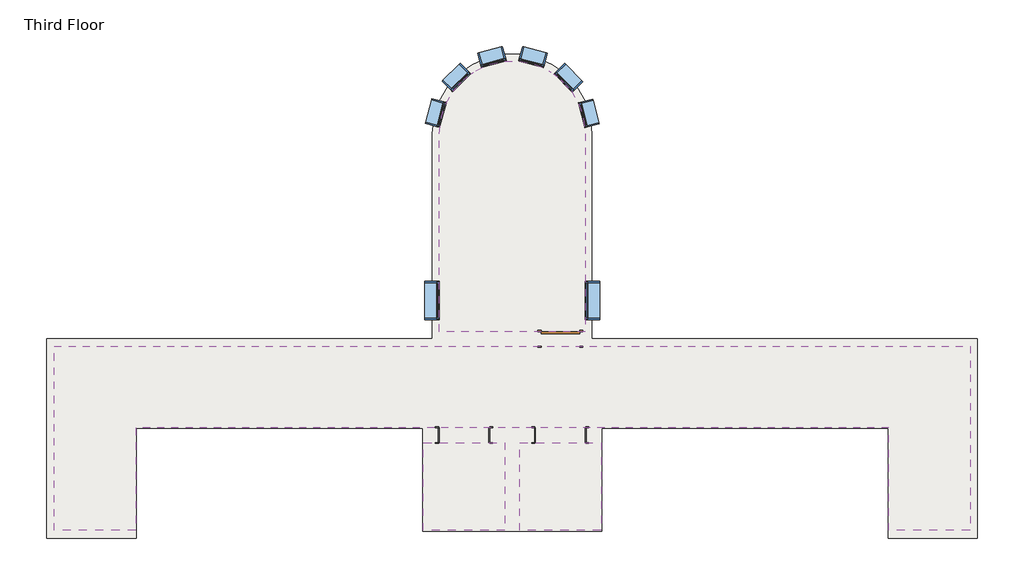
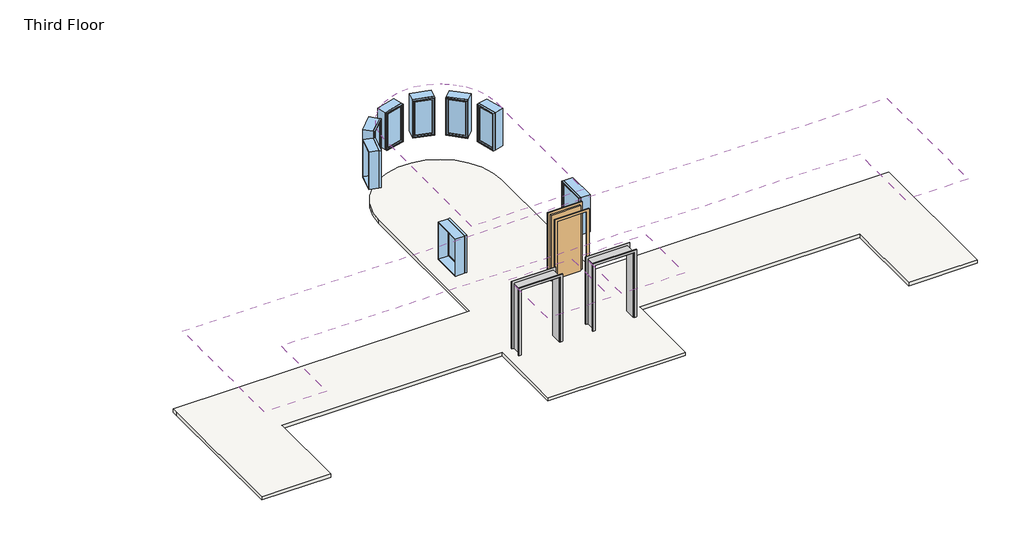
# One storey: 8 windows, 4 coverings, 2 proxies, 1 door, 1 slab.
"""IFC4 building model written with IfcOpenShell, lengths in millimetres."""

import ifcopenshell
import ifcopenshell.guid

model = None  # the IFC model being written
_history = None  # IfcOwnerHistory: only IFC2X3 demands one
_inside = {}  # id of a spatial element -> (the spatial element, [elements in it])
_under = {}  # id of a project, library or spatial element -> (it, [spatial elements below it])
_declared = {}  # id of a project -> (the project, [libraries it declares])
_typed = {}  # id of a type object -> (the type object, [elements of that type])
_made_of = {}  # id of a material, layer set ... -> (it, [elements and type objects made of it])


def new_model(schema):
    """Start an empty IFC model of exactly this schema.

    Asked for "IFC4X3", IfcOpenShell would pick the latest addendum, in which some entities
    have other attributes; the version numbers below select the first issue.
    IFC2X3 requires an IfcOwnerHistory on every rooted entity: one is made here for all.
    """
    global model, _history
    if schema == "IFC4X3":
        model = ifcopenshell.file(schema_version=(4, 3, 0, 0))
    else:
        model = ifcopenshell.file(schema=schema)
    _inside.clear()
    _under.clear()
    _declared.clear()
    _typed.clear()
    _made_of.clear()
    _history = None
    if model.schema == "IFC2X3":
        org = make("IfcOrganization", Name="unknown")
        user = make(
            "IfcPersonAndOrganization",
            ThePerson=make("IfcPerson", FamilyName="unknown"),
            TheOrganization=org,
        )
        app = make(
            "IfcApplication",
            ApplicationDeveloper=org,
            Version="unknown",
            ApplicationFullName="unknown",
            ApplicationIdentifier="unknown",
        )
        _history = make(
            "IfcOwnerHistory",
            OwningUser=user,
            OwningApplication=app,
            ChangeAction="ADDED",
            CreationDate=0,
        )
    return model


def make(cls, **values):
    """One entity of the class cls with the attributes given. An attribute that is None is left unset."""
    return model.create_entity(
        cls, **{name: value for name, value in values.items() if value is not None}
    )


def rooted(cls, **values):
    """An entity with a GlobalId (a new one), such as an element, a storey or a relation."""
    return make(cls, GlobalId=ifcopenshell.guid.new(), OwnerHistory=_history, **values)


def si_unit(unit_type, name, prefix=None):
    """IfcSIUnit, for example si_unit("LENGTHUNIT", "METRE", prefix="MILLI")."""
    return make("IfcSIUnit", UnitType=unit_type, Prefix=prefix, Name=name)


def assignment(units):
    """IfcUnitAssignment: the units of a project."""
    return None if units is None else make("IfcUnitAssignment", Units=units)


def point(xyz):
    """IfcCartesianPoint."""
    return None if xyz is None else make("IfcCartesianPoint", Coordinates=xyz)


def direction(xyz):
    """IfcDirection."""
    return None if xyz is None else make("IfcDirection", DirectionRatios=xyz)


def frame(location, z_axis=None, x_axis=None):
    """IfcAxis2Placement3D, a coordinate frame: its origin and axes. An axis left out is left unset."""
    return make(
        "IfcAxis2Placement3D",
        Location=point(location),
        Axis=direction(z_axis),
        RefDirection=direction(x_axis),
    )


def frame_2d(location, x_axis=None):
    """IfcAxis2Placement2D, a coordinate frame in the plane: its origin and x axis."""
    return make(
        "IfcAxis2Placement2D", Location=point(location), RefDirection=direction(x_axis)
    )


def origin():
    """The frame at (0, 0, 0) with its axes left unset."""
    return frame((0.0, 0.0, 0.0))


def origin_with_axes():
    """The frame at (0, 0, 0) with the z axis (0, 0, 1) and the x axis (1, 0, 0) written out."""
    return frame((0.0, 0.0, 0.0), z_axis=(0.0, 0.0, 1.0), x_axis=(1.0, 0.0, 0.0))


def place(relative_to, where):
    """IfcLocalPlacement: puts the frame where relative to a parent placement (None: the world)."""
    return make(
        "IfcLocalPlacement", PlacementRelTo=relative_to, RelativePlacement=where
    )


def context(
    kind, dimensions, precision=None, world=None, true_north=None, identifier=None
):
    """IfcGeometricRepresentationContext, for example the 3D "Model" context."""
    return make(
        "IfcGeometricRepresentationContext",
        ContextIdentifier=identifier,
        ContextType=kind,
        CoordinateSpaceDimension=dimensions,
        Precision=precision,
        WorldCoordinateSystem=world,
        TrueNorth=true_north,
    )


def project(units=None, contexts=None):
    """IfcProject with its units and contexts."""
    return rooted(
        "IfcProject",
        Name="project",
        RepresentationContexts=contexts,
        UnitsInContext=assignment(units),
    )


def spatial(cls, under=None, at=None, **own):
    """A site, building, storey or space (cls), placed at a placement, below another one or the project."""
    s = rooted(cls, ObjectPlacement=at, **own)
    if under is not None:
        _under.setdefault(under.id(), (under, []))[1].append(s)
    return s


def polyline(points):
    """IfcPolyline through the points."""
    return make("IfcPolyline", Points=[point(p) for p in points])


def circle_curve(where, radius):
    """IfcCircle in the frame where."""
    return make("IfcCircle", Position=where, Radius=radius)


def trimmed(basis, trim1, trim2, sense, master):
    """IfcTrimmedCurve: the piece of a basis curve between two trims."""
    return make(
        "IfcTrimmedCurve",
        BasisCurve=basis,
        Trim1=trim1,
        Trim2=trim2,
        SenseAgreement=sense,
        MasterRepresentation=master,
    )


def segment(curve, same_sense, transition):
    """IfcCompositeCurveSegment."""
    return make(
        "IfcCompositeCurveSegment",
        Transition=transition,
        SameSense=same_sense,
        ParentCurve=curve,
    )


def composite_curve(segments, self_intersect=None):
    """IfcCompositeCurve: segments joined end to end."""
    return make("IfcCompositeCurve", Segments=segments, SelfIntersect=self_intersect)


def outline(outer, holes=None, kind="AREA"):
    """IfcArbitraryClosedProfileDef: a profile drawn as a closed curve; with holes, ...WithVoids."""
    if holes is None:
        return make("IfcArbitraryClosedProfileDef", ProfileType=kind, OuterCurve=outer)
    return make(
        "IfcArbitraryProfileDefWithVoids",
        ProfileType=kind,
        OuterCurve=outer,
        InnerCurves=holes,
    )


def extrude(swept, where, along, depth):
    """IfcExtrudedAreaSolid: the profile swept, set in the frame where, extruded along a direction by depth."""
    return make(
        "IfcExtrudedAreaSolid",
        SweptArea=swept,
        Position=where,
        ExtrudedDirection=direction(along),
        Depth=depth,
    )


def faces_of(points, faces, orient=None, outer=None):
    """IfcFace entities. A face is a list of loops; a loop is a list of indices into points, from 0.

    orient and outer hold one flag for each loop. By default every Orientation is true, the
    first loop of a face is its IfcFaceOuterBound and the others are IfcFaceBound.
    """
    made = []
    for i, loops in enumerate(faces):
        bounds = []
        for j, loop in enumerate(loops):
            is_outer = j == 0 if outer is None else outer[i][j]
            bounds.append(
                make(
                    "IfcFaceOuterBound" if is_outer else "IfcFaceBound",
                    Bound=make("IfcPolyLoop", Polygon=[points[k] for k in loop]),
                    Orientation=True if orient is None else orient[i][j],
                )
            )
        made.append(make("IfcFace", Bounds=bounds))
    return made


def faceted_brep(points, faces, orient=None, outer=None, voids=None):
    """IfcFacetedBrep: a solid bounded by flat faces; with voids (closed shells), ...WithVoids."""
    shared = [point(p) for p in points]
    hull = make("IfcClosedShell", CfsFaces=faces_of(shared, faces, orient, outer))
    if voids is None:
        return make("IfcFacetedBrep", Outer=hull)
    return make(
        "IfcFacetedBrepWithVoids",
        Outer=hull,
        Voids=[
            make(cls, CfsFaces=faces_of(shared, fs, o, b)) for cls, fs, o, b in voids
        ],
    )


def shape(context_of_items, identifier, shape_type, items):
    """IfcShapeRepresentation: the items that make up one representation, for example the "Body"."""
    return make(
        "IfcShapeRepresentation",
        ContextOfItems=context_of_items,
        RepresentationIdentifier=identifier,
        RepresentationType=shape_type,
        Items=items,
    )


def source(mapping_origin, context_of_items, identifier, shape_type, items):
    """IfcRepresentationMap: a shape defined once, which mapped items show again and again."""
    return make(
        "IfcRepresentationMap",
        MappingOrigin=mapping_origin,
        MappedRepresentation=shape(context_of_items, identifier, shape_type, items),
    )


def transform(
    local_origin,
    x_axis=None,
    y_axis=None,
    z_axis=None,
    scale=None,
    scale2=None,
    scale3=None,
    uniform=True,
):
    """IfcCartesianTransformationOperator3D, or its non-uniform kind. x_axis, y_axis, z_axis: its Axis1, 2, 3."""
    if uniform:
        return make(
            "IfcCartesianTransformationOperator3D",
            Axis1=direction(x_axis),
            Axis2=direction(y_axis),
            LocalOrigin=point(local_origin),
            Scale=scale,
            Axis3=direction(z_axis),
        )
    return make(
        "IfcCartesianTransformationOperator3DnonUniform",
        Axis1=direction(x_axis),
        Axis2=direction(y_axis),
        LocalOrigin=point(local_origin),
        Scale=scale,
        Axis3=direction(z_axis),
        Scale2=scale2,
        Scale3=scale3,
    )


def mapped(mapping_source, mapping_target):
    """IfcMappedItem: shows the shape of a source again, moved by a transform."""
    return make(
        "IfcMappedItem", MappingSource=mapping_source, MappingTarget=mapping_target
    )


def made_of(thing, what):
    """Note that an element or type object is made of a material, layer set ...; save() writes the relation."""
    if what is not None:
        _made_of.setdefault(what.id(), (what, []))[1].append(thing)
    return thing


def element(
    cls,
    number,
    at=None,
    inside=None,
    cuts=None,
    type_object=None,
    material=None,
    context=None,
    identifier="Body",
    shape_type=None,
    held_by="IfcProductDefinitionShape",
    body=None,
    shapes=None,
    **own,
):
    """One element of the class cls, such as IfcWall. Its Tag is "e" and its number.

    at: its placement. inside: the storey or other place that contains it. cuts: it is an
    opening in that element (IfcRelVoidsElement). A single representation is given by context,
    identifier, shape_type and body (its items); several are given by shapes. held_by: the class
    of the entity that holds the representations. save() writes the other relations.
    """
    e = rooted(cls, Tag="e%d" % number, ObjectPlacement=at, **own)
    if body is not None:
        shapes = [shape(context, identifier, shape_type, body)]
    if shapes is not None:
        e.Representation = make(held_by, Representations=shapes)
    if inside is not None:
        _inside.setdefault(inside.id(), (inside, []))[1].append(e)
    if cuts is not None:
        rooted(
            "IfcRelVoidsElement", RelatingBuildingElement=cuts, RelatedOpeningElement=e
        )
    if type_object is not None:
        _typed.setdefault(type_object.id(), (type_object, []))[1].append(e)
    return made_of(e, material)


def aggregate(whole, parts):
    """IfcRelAggregates: a whole, such as a stair, and the parts it consists of."""
    return rooted("IfcRelAggregates", RelatingObject=whole, RelatedObjects=parts)


def save(model, path):
    """Write the relations noted so far, then the file.

    IfcRelAggregates (storeys below a building ...), IfcRelContainedInSpatialStructure (elements
    in a storey), IfcRelDefinesByType, IfcRelAssociatesMaterial and IfcRelDeclares: one each for
    every whole, place, type object, material and project.
    """
    for whole, parts in _under.values():
        aggregate(whole, parts)
    for where, things in _inside.values():
        rooted(
            "IfcRelContainedInSpatialStructure",
            RelatedElements=things,
            RelatingStructure=where,
        )
    for kind, things in _typed.values():
        rooted("IfcRelDefinesByType", RelatedObjects=things, RelatingType=kind)
    for what, things in _made_of.values():
        rooted("IfcRelAssociatesMaterial", RelatedObjects=things, RelatingMaterial=what)
    for by, libraries in _declared.values():
        rooted("IfcRelDeclares", RelatingContext=by, RelatedDefinitions=libraries)
    model.write(path)


def proxy_c3589814(model_context):
    return source(origin(), model_context, "Body", "SolidModel", [
        extrude(outline(polyline([(0.0, -611.4386567), (2127.25, -611.4386567), (2127.25, 595.0613433), (0.0, 595.0613433), (0.0, 671.2613433), (2203.45, 671.2613433), (2203.45, -687.6386567), (0.0, -687.6386567), (0.0, -611.4386567)])), frame((0.0, -195.2625, 0.0), z_axis=(0.0, 1.0, 0.0), x_axis=(0.0, 0.0, 1.0)), (0.0, 0.0, 1.0), 19.05),
        extrude(outline(polyline([(0.0, 671.2613433), (2209.8, 671.2613433), (2209.8, -687.6386567), (0.0, -687.6386567), (0.0, -611.4386567), (2127.25, -611.4386567), (2127.25, 595.0613433), (0.0, 595.0613433), (0.0, 671.2613433)])), frame((0.0, 176.2125, 0.0), z_axis=(0.0, 1.0, 0.0), x_axis=(0.0, 0.0, 1.0)), (0.0, 0.0, 1.0), 19.05),
        faceted_brep([(582.3613433, 176.2125, 0.0), (601.4113433, 176.2125, 0.0), (601.4113433, -176.2125, 0.0), (582.3613433, -176.2125, 0.0), (582.3613433, 176.2125, 2114.55), (601.4113433, 176.2125, 2133.6), (601.4113433, -176.2125, 2133.6), (582.3613433, -176.2125, 2114.55), (-598.7386567, 176.2125, 2114.55), (-617.7886567, 176.2125, 2133.6), (-617.7886567, -176.2125, 2133.6), (-598.7386567, -176.2125, 2114.55), (-598.7386567, 176.2125, 0.0), (-598.7386567, -176.2125, 0.0), (-617.7886567, -176.2125, 0.0), (-617.7886567, 176.2125, 0.0)], [[[0, 1, 2, 3]], [[1, 0, 4, 5]], [[2, 1, 5, 6]], [[3, 2, 6, 7]], [[0, 3, 7, 4]], [[5, 4, 8, 9]], [[6, 5, 9, 10]], [[7, 6, 10, 11]], [[4, 7, 11, 8]], [[12, 13, 14, 15]], [[9, 8, 12, 15]], [[10, 9, 15, 14]], [[11, 10, 14, 13]], [[8, 11, 13, 12]]]),
    ])


def door_632be17d(model_context):
    return source(origin(), model_context, "Body", "SweptSolid", [
        extrude(outline(polyline([(2209.8, -533.4), (0.0, -533.4), (0.0, -457.2), (2133.6, -457.2), (2133.6, 457.2), (0.0, 457.2), (0.0, 533.4), (2209.8, 533.4), (2209.8, -533.4)])), frame((0.0, 176.2125, 0.0), z_axis=(0.0, 1.0, 0.0), x_axis=(0.0, 0.0, 1.0)), (0.0, 0.0, 1.0), 25.4),
        extrude(outline(polyline([(2209.8, 533.4), (2209.8, -533.4), (0.0, -533.4), (0.0, -457.2), (2133.6, -457.2), (2133.6, 457.2), (0.0, 457.2), (0.0, 533.4), (2209.8, 533.4)])), frame((0.0, -201.6125, 0.0), z_axis=(0.0, 1.0, 0.0), x_axis=(0.0, 0.0, 1.0)), (0.0, 0.0, 1.0), 25.4),
        extrude(outline(polyline([(457.2, 125.4125), (-457.2, 125.4125), (-457.2, 176.2125), (457.2, 176.2125), (457.2, 125.4125)])), origin_with_axes(), (0.0, 0.0, 1.0), 2133.6),
    ])


def window_60baf983(model_context):
    return source(origin(), model_context, "Body", "SweptSolid", [
        extrude(outline(polyline([(203.2, 128.5875), (-279.4, 128.5875), (-279.4, 141.2875), (203.2, 141.2875), (203.2, 128.5875)])), frame((0.0, 0.0, 977.9), z_axis=(0.0, 0.0, 1.0), x_axis=(1.0, 0.0, 0.0)), (0.0, 0.0, 1.0), 1092.2),
        extrude(outline(polyline([(2114.55, -323.85), (933.45, -323.85), (933.45, 247.65), (2114.55, 247.65), (2114.55, -323.85)]), holes=[polyline([(2070.1, -279.4), (2070.1, 203.2), (977.9, 203.2), (977.9, -279.4), (2070.1, -279.4)])]), frame((0.0, 112.7125, 0.0), z_axis=(0.0, 1.0, 0.0), x_axis=(0.0, 0.0, 1.0)), (0.0, 0.0, 1.0), 44.45),
        extrude(outline(polyline([(2133.6, -342.9), (914.4, -342.9), (914.4, 266.7), (2133.6, 266.7), (2133.6, -342.9)]), holes=[polyline([(2101.85, -311.15), (2101.85, 234.95), (946.15, 234.95), (946.15, -311.15), (2101.85, -311.15)])]), frame((0.0, -176.2125, 0.0), z_axis=(0.0, 1.0, 0.0), x_axis=(0.0, 0.0, 1.0)), (0.0, 0.0, 1.0), 288.925),
        extrude(outline(polyline([(2133.6, 266.7), (2133.6, -342.9), (914.4, -342.9), (914.4, 266.7), (2133.6, 266.7)]), holes=[polyline([(2114.55, 247.65), (933.45, 247.65), (933.45, -323.85), (2114.55, -323.85), (2114.55, 247.65)])]), frame((0.0, 112.7125, 0.0), z_axis=(0.0, 1.0, 0.0), x_axis=(0.0, 0.0, 1.0)), (0.0, 0.0, 1.0), 63.5),
    ])


def window_15c49d37(model_context):
    return source(origin(), model_context, "Body", "SweptSolid", [
        extrude(outline(polyline([(355.6, 128.5875), (-431.8, 128.5875), (-431.8, 141.2875), (355.6, 141.2875), (355.6, 128.5875)])), frame((0.0, 0.0, 977.9), z_axis=(0.0, 0.0, 1.0), x_axis=(1.0, 0.0, 0.0)), (0.0, 0.0, 1.0), 1092.2),
        extrude(outline(polyline([(2114.55, -476.25), (933.45, -476.25), (933.45, 400.05), (2114.55, 400.05), (2114.55, -476.25)]), holes=[polyline([(2070.1, -431.8), (2070.1, 355.6), (977.9, 355.6), (977.9, -431.8), (2070.1, -431.8)])]), frame((0.0, 112.7125, 0.0), z_axis=(0.0, 1.0, 0.0), x_axis=(0.0, 0.0, 1.0)), (0.0, 0.0, 1.0), 44.45),
        extrude(outline(polyline([(2133.6, -495.3), (914.4, -495.3), (914.4, 419.1), (2133.6, 419.1), (2133.6, -495.3)]), holes=[polyline([(2101.85, -463.55), (2101.85, 387.35), (946.15, 387.35), (946.15, -463.55), (2101.85, -463.55)])]), frame((0.0, -176.2125, 0.0), z_axis=(0.0, 1.0, 0.0), x_axis=(0.0, 0.0, 1.0)), (0.0, 0.0, 1.0), 288.925),
        extrude(outline(polyline([(2133.6, 419.1), (2133.6, -495.3), (914.4, -495.3), (914.4, 419.1), (2133.6, 419.1)]), holes=[polyline([(2114.55, 400.05), (933.45, 400.05), (933.45, -476.25), (2114.55, -476.25), (2114.55, 400.05)])]), frame((0.0, 112.7125, 0.0), z_axis=(0.0, 1.0, 0.0), x_axis=(0.0, 0.0, 1.0)), (0.0, 0.0, 1.0), 63.5),
    ])


model = new_model("IFC4")

# Units and contexts
model_context = context("Model", 3, world=origin())
ifc_project = project(units=[si_unit("LENGTHUNIT", "METRE", prefix="MILLI")], contexts=[model_context])

# Site, building, storey
site = spatial("IfcSite", under=ifc_project)
building = spatial("IfcBuilding", under=site)
storey = spatial("IfcBuildingStorey", under=building, Name="Third Floor", Elevation=6096.0)

# Proxies
placement = place(None, origin())
proxy_shape = proxy_c3589814(model_context)
element("IfcBuildingElementProxy", 1, Name="Opening-Cased : 48\" x 84\"", ObjectType="Opening-Cased : 48\" x 84\"", at=placement, inside=storey, context=model_context, shape_type="MappedRepresentation", body=[
    mapped(proxy_shape, transform((-7396.8036255, 2429.9758812, 6096.0), x_axis=(-1.0, 0.0, 0.0), y_axis=(0.0, -1.0, 0.0), z_axis=(0.0, 0.0, 1.0))),
])
element("IfcBuildingElementProxy", 2, Name="Opening-Cased : 48\" x 84\"", ObjectType="Opening-Cased : 48\" x 84\"", at=placement, inside=storey, context=model_context, shape_type="MappedRepresentation", body=[
    mapped(proxy_shape, transform((-5110.8036255, 2429.9758812, 6096.0), x_axis=(-1.0, 0.0, 0.0), y_axis=(0.0, -1.0, 0.0), z_axis=(0.0, 0.0, 1.0))),
])

# Coverings
element("IfcCovering", 3, ObjectType="GWB on Mtl. Stud", at=placement, inside=storey, context=model_context, shape_type="SweptSolid", body=[
    extrude(outline(polyline([(2693.5975313, 167.7883812), (2693.5975313, 2606.1883812), (-15184.8274687, 2606.1883812), (-15184.8274687, 167.7883812), (-17118.4024687, 167.7883812), (-17118.4024687, 4539.7633812), (4627.1725313, 4539.7633812), (4627.1725313, 167.7883812), (2693.5975313, 167.7883812)])), frame((0.0, 0.0, 8686.8), z_axis=(0.0, 0.0, 1.0), x_axis=(1.0, 0.0, 0.0)), (0.0, 0.0, 1.0), 107.95),
])
element("IfcCovering", 4, ObjectType="GWB on Mtl. Stud", at=placement, inside=storey, context=model_context, shape_type="SweptSolid", body=[
    extrude(outline(composite_curve([segment(polyline([(-7974.4024687, 4892.1883812), (-7974.4024687, 9592.7758812)]), True, "CONTINUOUS"), segment(trimmed(circle_curve(frame_2d((-6245.6149687, 9592.7758812)), 1728.7875), [point((-7974.4024687, 9592.7758812))], [point((-4516.8274687, 9592.7758812))], False, "CARTESIAN"), True, "CONTINUOUS"), segment(polyline([(-4516.8274687, 9592.7758812), (-4516.8274687, 4892.1883812), (-7974.4024687, 4892.1883812)]), True, "CONTINUOUS")], self_intersect=False)), frame((0.0, 0.0, 8686.8), z_axis=(0.0, 0.0, 1.0), x_axis=(1.0, 0.0, 0.0)), (0.0, 0.0, 1.0), 107.95),
])
element("IfcCovering", 5, ObjectType="GWB on Mtl. Stud", at=placement, inside=storey, context=model_context, shape_type="SweptSolid", body=[
    extrude(outline(polyline([(-6421.8274687, 167.7883812), (-8355.4024687, 167.7883812), (-8355.4024687, 2253.7633812), (-6421.8274687, 2253.7633812), (-6421.8274687, 167.7883812)])), frame((0.0, 0.0, 8686.8), z_axis=(0.0, 0.0, 1.0), x_axis=(1.0, 0.0, 0.0)), (0.0, 0.0, 1.0), 107.95),
])
element("IfcCovering", 6, ObjectType="GWB on Mtl. Stud", at=placement, inside=storey, context=model_context, shape_type="SweptSolid", body=[
    extrude(outline(polyline([(-4135.8274687, 2253.7633812), (-4135.8274687, 167.7883812), (-6069.4024687, 167.7883812), (-6069.4024687, 2253.7633812), (-4135.8274687, 2253.7633812)])), frame((0.0, 0.0, 8686.8), z_axis=(0.0, 0.0, 1.0), x_axis=(1.0, 0.0, 0.0)), (0.0, 0.0, 1.0), 107.95),
])

# Door
door_shape = door_632be17d(model_context)
element("IfcDoor", 7, ObjectType="Single-Flush : 36\" x 84\"", at=placement, inside=storey, context=model_context, shape_type="MappedRepresentation", body=[
    mapped(door_shape, transform((-5102.6149687, 4715.9758812, 6096.0), x_axis=(1.0, 0.0, 0.0), y_axis=(0.0, 1.0, 0.0), z_axis=(0.0, 0.0, 1.0))),
])

# Slab
element("IfcSlab", 8, ObjectType="LW Concrete on Metal Deck", at=placement, inside=storey, context=model_context, shape_type="SweptSolid", body=[
    extrude(outline(composite_curve([segment(polyline([(-17305.7274687, 4552.4633812), (-17305.7274687, 4715.9758812), (-8139.5024687, 4715.9758812), (-8139.5024687, 9592.7758812)]), True, "CONTINUOUS"), segment(trimmed(circle_curve(frame_2d((-6245.6149687, 9592.7758812)), 1893.8875), [point((-8139.5024687, 9592.7758812))], [point((-4351.7274687, 9592.7758812))], False, "CARTESIAN"), True, "CONTINUOUS"), segment(polyline([(-4351.7274687, 9592.7758812), (-4351.7274687, 4715.9758812), (4803.3850313, 4715.9758812), (4803.3850313, -19.5366188), (2680.8975313, -19.5366188), (2680.8975313, 2593.4883812), (-4123.1274687, 2593.4883812), (-4123.1274687, 155.0883812), (-8368.1024687, 155.0883812), (-8368.1024687, 2593.4883812), (-15172.1274687, 2593.4883812), (-15172.1274687, -19.5366188), (-17305.7274687, -19.5366188), (-17305.7274687, 4552.4633812)]), True, "CONTINUOUS")], self_intersect=False)), frame((0.0, 0.0, 5991.225), z_axis=(0.0, 0.0, 1.0), x_axis=(1.0, 0.0, 0.0)), (0.0, 0.0, 1.0), 104.775),
])

# Windows
window_shape = window_60baf983(model_context)
element("IfcWindow", 9, ObjectType="Fixed : 24\" x 48\"", at=placement, inside=storey, context=model_context, shape_type="MappedRepresentation", body=[
    mapped(window_shape, transform((-8072.5076754, 10048.7859441, 6096.0), x_axis=(-0.2617614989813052, -0.9651325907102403, 0.0), y_axis=(0.9651325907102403, -0.2617614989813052, 0.0), z_axis=(0.0, 0.0, 1.0))),
])
element("IfcWindow", 10, ObjectType="Fixed : 24\" x 48\"", at=placement, inside=storey, context=model_context, shape_type="MappedRepresentation", body=[
    mapped(window_shape, transform((-7599.7454312, 10901.1385333, 6096.0), x_axis=(-0.7092584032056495, -0.7049485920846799, 0.0), y_axis=(0.7049485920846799, -0.7092584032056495, 0.0), z_axis=(0.0, 0.0, 1.0))),
])
element("IfcWindow", 11, ObjectType="Fixed : 24\" x 48\"", at=placement, inside=storey, context=model_context, shape_type="MappedRepresentation", body=[
    mapped(window_shape, transform((-6764.1450232, 11402.9164066, 6096.0), x_axis=(-0.96671009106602, -0.25587418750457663, 0.0), y_axis=(0.25587418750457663, -0.96671009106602, 0.0), z_axis=(0.0, 0.0, 1.0))),
])
element("IfcWindow", 12, ObjectType="Fixed : 24\" x 48\"", at=placement, inside=storey, context=model_context, shape_type="MappedRepresentation", body=[
    mapped(window_shape, transform((-5789.6049059, 11419.6685878, 6096.0), x_axis=(-0.9651325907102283, 0.2617614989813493, 0.0), y_axis=(-0.2617614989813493, -0.9651325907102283, 0.0), z_axis=(0.0, 0.0, 1.0))),
])
element("IfcWindow", 13, ObjectType="Fixed : 24\" x 48\"", at=placement, inside=storey, context=model_context, shape_type="MappedRepresentation", body=[
    mapped(window_shape, transform((-4937.2523166, 10946.9063437, 6096.0), x_axis=(-0.7049485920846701, 0.7092584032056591, 0.0), y_axis=(-0.7092584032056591, -0.7049485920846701, 0.0), z_axis=(0.0, 0.0, 1.0))),
])
element("IfcWindow", 14, ObjectType="Fixed : 24\" x 48\"", at=placement, inside=storey, context=model_context, shape_type="MappedRepresentation", body=[
    mapped(window_shape, transform((-4435.4744434, 10111.3059357, 6096.0), x_axis=(-0.25587418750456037, 0.9667100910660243, 0.0), y_axis=(-0.9667100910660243, -0.25587418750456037, 0.0), z_axis=(0.0, 0.0, 1.0))),
])
window_2_shape = window_15c49d37(model_context)
element("IfcWindow", 15, ObjectType="Fixed : 36\" x 48\"", at=placement, inside=storey, context=model_context, shape_type="MappedRepresentation", body=[
    mapped(window_2_shape, transform((-8150.6149687, 5592.2758812, 6096.0), x_axis=(0.0, -1.0, 0.0), y_axis=(1.0, 0.0, 0.0), z_axis=(0.0, 0.0, 1.0))),
])
element("IfcWindow", 16, ObjectType="Fixed : 36\" x 48\"", at=placement, inside=storey, context=model_context, shape_type="MappedRepresentation", body=[
    mapped(window_2_shape, transform((-4340.6149687, 5668.4758812, 6096.0), x_axis=(0.0, 1.0, 0.0), y_axis=(-1.0, 0.0, 0.0), z_axis=(0.0, 0.0, 1.0))),
])

save(model, "model.ifc")
